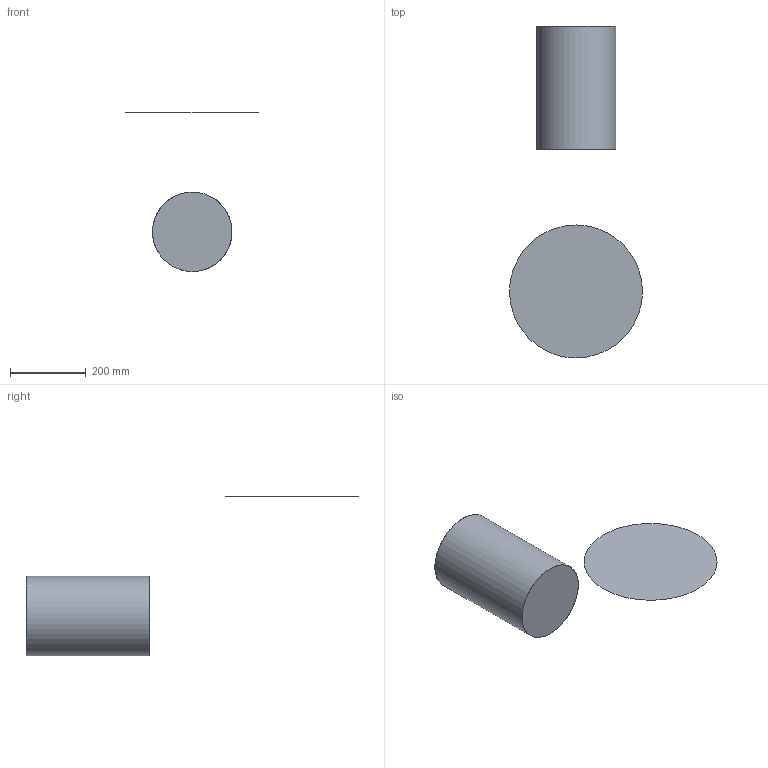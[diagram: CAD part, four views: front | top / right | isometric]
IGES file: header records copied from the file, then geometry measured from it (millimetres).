
Global section: file name: C:\Users\Massimiliano\Desktop\MOON bidet mini art.5525-45x35 .5525\MOON bidet mini art.5525.igs; native system: Rhinoceros ( Mar 28 2013 ); preprocessor: Trout Lake IGES 012 Mar 28 2013; date: 180117.104426; units: centimetre
Bounding box: 350 x 874.05 x 418.9 mm (x, y, z)
Surface area: 378790.5 mm2 (no closed solid volume)
Topology: 0 solids, 0 shells, 4 faces, 15 edges, 14 vertices
Faces by surface type: bspline 4
